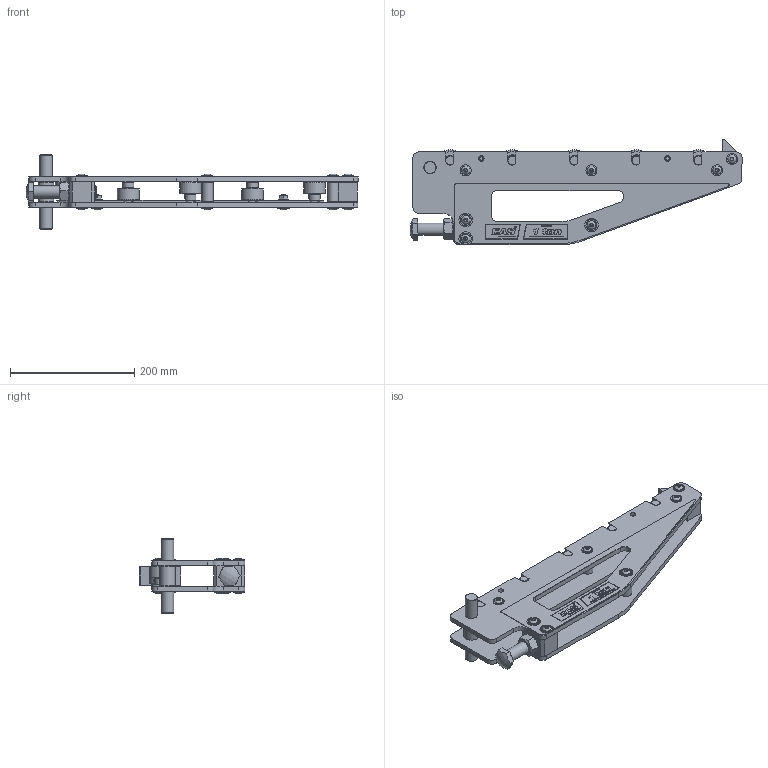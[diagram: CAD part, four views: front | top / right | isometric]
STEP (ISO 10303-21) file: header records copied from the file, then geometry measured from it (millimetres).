
FILE_DESCRIPTION(/* description */ ('CONSOLE PLATE'),/* implementation_level */ '2;1');
FILE_NAME(/* name */ 'C:\Users\jaccow\AppData\Local\Temp\Cadac\NetworkPub\step\FB896-950.iam.stp',/* time_stamp */ '2017-12-14T11:47:42+01:00',/* author */ ('Yue'),/* organization */ (''),/* preprocessor_version */ 'ST-DEVELOPER v16.1',/* originating_system */ 'Autodesk Inventor 2016',/* authorisation */ '');
FILE_SCHEMA (('AUTOMOTIVE_DESIGN { 1 0 10303 214 3 1 1 }'));
Products named in the file (17): FB897-101; FB756-104; FB627-104; DQ1504-281; FB752-101; FB757-690; FB751-186; CBE1200-1201D; DQ1509-028; CAE1080-1081A; CBB1080-1201D; CCE820-028-9A; FB754-044; FB755-104; FB898-026; FB899-026; FB896-950
Assembly tree (45 placements, depth 2):
  FB896-950
    FB897-101  x2
    FB756-104
    FB627-104  x5
    DQ1504-281  x5
    FB752-101
    FB757-690
    FB751-186  x4
    CBE1200-1201D
    DQ1509-028
    CAE1080-1081A  x2
    CBB1080-1201D  x2
    CCE820-028-9A  x16
    FB754-044
    FB755-104
    FB898-026
    FB899-026
Bounding box: 534.78 x 170.17 x 120 mm (x, y, z)
Volume: 1224642 mm3; surface area: 473574.5 mm2
Topology: 65 solids, 65 shells, 2852 faces, 7095 edges, 4642 vertices
Faces by surface type: plane 1739, bspline 569, cylinder 270, cone 197, torus 76, sphere 1
Full cylindrical faces by diameter (mm): 1.215 x5, 2.4 x5, 6.647 x9, 8 x16, 8.4 x2, 9 x18, 11.95 x1, 12 x2, 12.1 x1, 15 x10, 17 x2, 17.294 x2, 17.8 x16, 18 x9, 18.6 x5, 20 x5, 22 x4, 23.4 x5, 25 x1, 27.6 x20, 30 x1, 35 x5
Entity records: 71150 total; most frequent: CARTESIAN_POINT 20808, ORIENTED_EDGE 11228, DIRECTION 8096, EDGE_CURVE 5605, LINE 4140, VECTOR 4140, VERTEX_POINT 3768, EDGE_LOOP 2516
